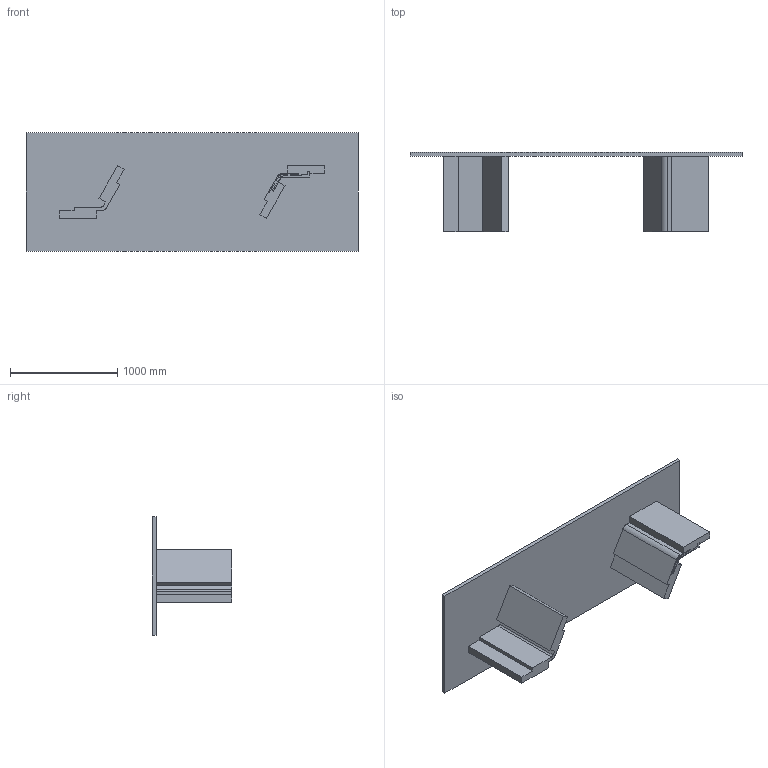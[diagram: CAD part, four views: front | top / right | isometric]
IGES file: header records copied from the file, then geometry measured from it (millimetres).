
Start section: SolidWorks IGES file using analytic representation for surfaces
Global section: file name: C:\Users\Utilizador\Desktop\170L Izar Dining Table_va_prmt\170L Izar Dining Table_3D IGS.IGS; native system: SolidWorks 2022; preprocessor: SolidWorks 2022; author: Utilizador; date: 221104.155540; units: millimetre
Bounding box: 3100 x 740.2 x 1110 mm (x, y, z)
Surface area: 9996975 mm2 (no closed solid volume)
Topology: 0 solids, 0 shells, 72 faces, 496 edges, 496 vertices
Faces by surface type: bspline 64, revolution 8
